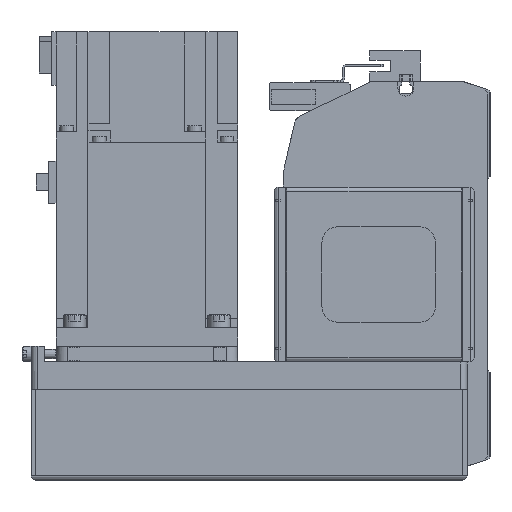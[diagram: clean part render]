
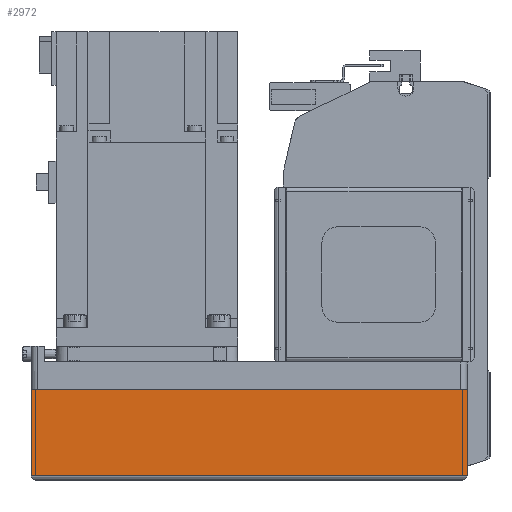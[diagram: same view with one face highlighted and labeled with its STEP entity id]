
A CAD part, left-side view. The second image highlights one B-rep face of the part: STEP entity #2972.
In plain terms, the highlighted planar face has unit normal (-1, 0, 0) as drawn and (0, -1, 0) by its records, which use the part's own axes.
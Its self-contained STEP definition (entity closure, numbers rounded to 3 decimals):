
#2972 = ADVANCED_FACE( '', ( #6330 ), #6331, .T. );
#6330 = FACE_OUTER_BOUND( '', #9886, .T. );
#6331 = PLANE( '', #9887 );
#9886 = EDGE_LOOP( '', ( #18289, #18290, #18291, #18292 ) );
#9887 = AXIS2_PLACEMENT_3D( '', #18293, #18294, #18295 );
#18289 = ORIENTED_EDGE( '', *, *, #22680, .F. );
#18290 = ORIENTED_EDGE( '', *, *, #21759, .F. );
#18291 = ORIENTED_EDGE( '', *, *, #22754, .T. );
#18292 = ORIENTED_EDGE( '', *, *, #22210, .T. );
#18293 = CARTESIAN_POINT( '', ( -192., -40., -12.1 ) );
#18294 = DIRECTION( '', ( 0., -1., 0. ) );
#18295 = DIRECTION( '', ( 0., 0., -1. ) );
#21759 = EDGE_CURVE( '', #26624, #26625, #26626, .T. );
#22210 = EDGE_CURVE( '', #27291, #27295, #27297, .T. );
#22680 = EDGE_CURVE( '', #26625, #27295, #27939, .T. );
#22754 = EDGE_CURVE( '', #26624, #27291, #28040, .T. );
#26624 = VERTEX_POINT( '', #33550 );
#26625 = VERTEX_POINT( '', #33551 );
#26626 = LINE( '', #33552, #33553 );
#27291 = VERTEX_POINT( '', #34655 );
#27295 = VERTEX_POINT( '', #34660 );
#27297 = LINE( '', #34662, #34663 );
#27939 = LINE( '', #35743, #35744 );
#28040 = LINE( '', #35875, #35876 );
#33550 = CARTESIAN_POINT( '', ( -192., -40., -12.1 ) );
#33551 = CARTESIAN_POINT( '', ( 0., -40., -12.1 ) );
#33552 = CARTESIAN_POINT( '', ( -192., -40., -12.1 ) );
#33553 = VECTOR( '', #39746, 1000. );
#34655 = CARTESIAN_POINT( '', ( -192., -40., -50. ) );
#34660 = CARTESIAN_POINT( '', ( 0., -40., -50. ) );
#34662 = CARTESIAN_POINT( '', ( -192., -40., -50. ) );
#34663 = VECTOR( '', #40281, 1000. );
#35743 = CARTESIAN_POINT( '', ( 0., -40., -12.1 ) );
#35744 = VECTOR( '', #40796, 1000. );
#35875 = CARTESIAN_POINT( '', ( -192., -40., -12.1 ) );
#35876 = VECTOR( '', #40884, 1000. );
#39746 = DIRECTION( '', ( 1., 0., 0. ) );
#40281 = DIRECTION( '', ( 1., 0., 0. ) );
#40796 = DIRECTION( '', ( 0., 0., -1. ) );
#40884 = DIRECTION( '', ( 0., 0., -1. ) );
